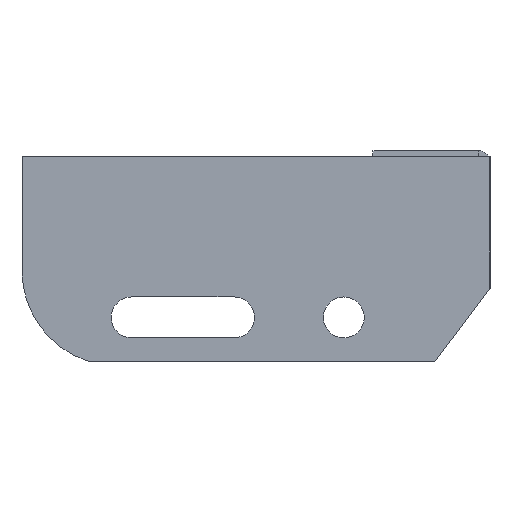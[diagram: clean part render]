
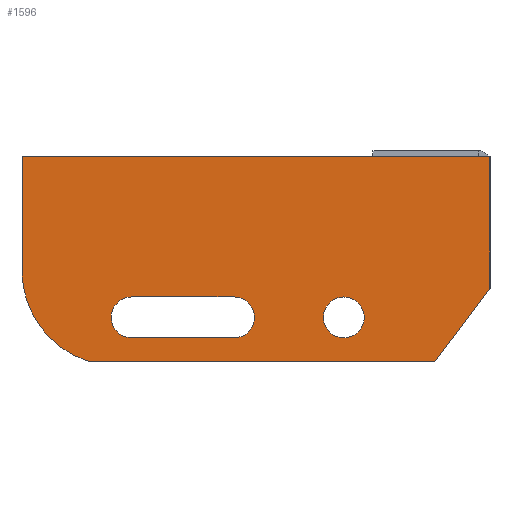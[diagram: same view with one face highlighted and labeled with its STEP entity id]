
A CAD part, left-side view. The second image highlights one B-rep face of the part: STEP entity #1596.
In plain terms, the highlighted planar face has unit normal (-1, 0, 0) as drawn and (0, 0, 1) by its records, which use the part's own axes.
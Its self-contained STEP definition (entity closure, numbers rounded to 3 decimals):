
#4 = CARTESIAN_POINT ( 'NONE',  ( -122.5, -55., 3. ) ) ;
#21 = ORIENTED_EDGE ( 'NONE', *, *, #1333, .F. ) ;
#30 = DIRECTION ( 'NONE',  ( 0., 0., 1. ) ) ;
#63 = EDGE_CURVE ( 'NONE', #1091, #831, #307, .T. ) ;
#109 = EDGE_CURVE ( 'NONE', #1829, #354, #1939, .T. ) ;
#112 = CARTESIAN_POINT ( 'NONE',  ( -122.5, -62., 3. ) ) ;
#155 = DIRECTION ( 'NONE',  ( 0., 1., 0. ) ) ;
#162 = DIRECTION ( 'NONE',  ( 1., 0., 0. ) ) ;
#173 = AXIS2_PLACEMENT_3D ( 'NONE', #204, #30, #1734 ) ;
#174 = DIRECTION ( 'NONE',  ( 1., 0., 0. ) ) ;
#193 = DIRECTION ( 'NONE',  ( 0., 0., 1. ) ) ;
#195 = DIRECTION ( 'NONE',  ( 0., 0., 1. ) ) ;
#197 = DIRECTION ( 'NONE',  ( 1., 0., 0. ) ) ;
#204 = CARTESIAN_POINT ( 'NONE',  ( -50., -55., 3. ) ) ;
#234 = DIRECTION ( 'NONE',  ( -1., 0., 0. ) ) ;
#240 = CARTESIAN_POINT ( 'NONE',  ( 0., -45., 3. ) ) ;
#243 = AXIS2_PLACEMENT_3D ( 'NONE', #790, #193, #1294 ) ;
#256 = DIRECTION ( 'NONE',  ( 1., 0., 0. ) ) ;
#258 = ORIENTED_EDGE ( 'NONE', *, *, #1832, .F. ) ;
#298 = CARTESIAN_POINT ( 'NONE',  ( -122.5, -48., 3. ) ) ;
#306 = DIRECTION ( 'NONE',  ( 1., 0., 0. ) ) ;
#307 = CIRCLE ( 'NONE', #243, 7. ) ;
#308 = VERTEX_POINT ( 'NONE', #1037 ) ;
#333 = LINE ( 'NONE', #980, #1511 ) ;
#341 = ORIENTED_EDGE ( 'NONE', *, *, #1239, .T. ) ;
#352 = ORIENTED_EDGE ( 'NONE', *, *, #1924, .T. ) ;
#354 = VERTEX_POINT ( 'NONE', #1659 ) ;
#376 = VERTEX_POINT ( 'NONE', #914 ) ;
#377 = VECTOR ( 'NONE', #971, 1000. ) ;
#383 = VECTOR ( 'NONE', #155, 1000. ) ;
#409 = CIRCLE ( 'NONE', #827, 7. ) ;
#415 = FACE_OUTER_BOUND ( 'NONE', #635, .T. ) ;
#418 = ORIENTED_EDGE ( 'NONE', *, *, #1402, .T. ) ;
#462 = LINE ( 'NONE', #1371, #1705 ) ;
#475 = ORIENTED_EDGE ( 'NONE', *, *, #1128, .T. ) ;
#524 = CARTESIAN_POINT ( 'NONE',  ( -127.5, -39., 3. ) ) ;
#543 = VECTOR ( 'NONE', #1550, 1000. ) ;
#544 = CARTESIAN_POINT ( 'NONE',  ( 0., 0., 3. ) ) ;
#572 = ORIENTED_EDGE ( 'NONE', *, *, #1365, .F. ) ;
#618 = CARTESIAN_POINT ( 'NONE',  ( 0., -45., 3. ) ) ;
#635 = EDGE_LOOP ( 'NONE', ( #475, #1731, #418, #352, #1380, #341 ) ) ;
#663 = DIRECTION ( 'NONE',  ( 0., 0., 1. ) ) ;
#709 = CARTESIAN_POINT ( 'NONE',  ( -129.5, -55., 3. ) ) ;
#720 = VERTEX_POINT ( 'NONE', #866 ) ;
#728 = AXIS2_PLACEMENT_3D ( 'NONE', #524, #663, #1297 ) ;
#745 = VERTEX_POINT ( 'NONE', #240 ) ;
#757 = AXIS2_PLACEMENT_3D ( 'NONE', #4, #195, #162 ) ;
#785 = CARTESIAN_POINT ( 'NONE',  ( 0., 0., 3. ) ) ;
#788 = CIRCLE ( 'NONE', #757, 7. ) ;
#790 = CARTESIAN_POINT ( 'NONE',  ( -122.5, -55., 3. ) ) ;
#807 = DIRECTION ( 'NONE',  ( 0., 0., 1. ) ) ;
#814 = ORIENTED_EDGE ( 'NONE', *, *, #1785, .F. ) ;
#827 = AXIS2_PLACEMENT_3D ( 'NONE', #1593, #992, #197 ) ;
#831 = VERTEX_POINT ( 'NONE', #709 ) ;
#866 = CARTESIAN_POINT ( 'NONE',  ( -122.5, -62., 3. ) ) ;
#870 = FACE_BOUND ( 'NONE', #1478, .T. ) ;
#898 = ORIENTED_EDGE ( 'NONE', *, *, #1745, .F. ) ;
#914 = CARTESIAN_POINT ( 'NONE',  ( -43., -55., 3. ) ) ;
#971 = DIRECTION ( 'NONE',  ( -1., 0., 0. ) ) ;
#980 = CARTESIAN_POINT ( 'NONE',  ( -160., 0., 3. ) ) ;
#990 = AXIS2_PLACEMENT_3D ( 'NONE', #1029, #1653, #256 ) ;
#992 = DIRECTION ( 'NONE',  ( 0., 0., 1. ) ) ;
#994 = VECTOR ( 'NONE', #234, 1000. ) ;
#1004 = VERTEX_POINT ( 'NONE', #1589 ) ;
#1012 = VERTEX_POINT ( 'NONE', #1240 ) ;
#1018 = CARTESIAN_POINT ( 'NONE',  ( -160., -39., 3. ) ) ;
#1020 = VECTOR ( 'NONE', #306, 1000. ) ;
#1029 = CARTESIAN_POINT ( 'NONE',  ( -127.5, -39., 3. ) ) ;
#1037 = CARTESIAN_POINT ( 'NONE',  ( -18.839, -70., 3. ) ) ;
#1052 = CIRCLE ( 'NONE', #173, 7. ) ;
#1070 = CARTESIAN_POINT ( 'NONE',  ( -87.5, -62., 3. ) ) ;
#1079 = DIRECTION ( 'NONE',  ( 1., 0., 0. ) ) ;
#1091 = VERTEX_POINT ( 'NONE', #298 ) ;
#1128 = EDGE_CURVE ( 'NONE', #745, #1829, #1850, .T. ) ;
#1201 = ORIENTED_EDGE ( 'NONE', *, *, #63, .F. ) ;
#1239 = EDGE_CURVE ( 'NONE', #308, #745, #1382, .T. ) ;
#1240 = CARTESIAN_POINT ( 'NONE',  ( -87.5, -48., 3. ) ) ;
#1294 = DIRECTION ( 'NONE',  ( 1., 0., 0. ) ) ;
#1297 = DIRECTION ( 'NONE',  ( 1., 0., 0. ) ) ;
#1309 = LINE ( 'NONE', #1883, #377 ) ;
#1310 = EDGE_CURVE ( 'NONE', #1776, #376, #1610, .T. ) ;
#1324 = AXIS2_PLACEMENT_3D ( 'NONE', #1584, #807, #174 ) ;
#1333 = EDGE_CURVE ( 'NONE', #1012, #1091, #1309, .T. ) ;
#1339 = FACE_BOUND ( 'NONE', #1997, .T. ) ;
#1347 = PLANE ( 'NONE',  #990 ) ;
#1365 = EDGE_CURVE ( 'NONE', #1651, #1012, #409, .T. ) ;
#1371 = CARTESIAN_POINT ( 'NONE',  ( -18.839, -70., 3. ) ) ;
#1380 = ORIENTED_EDGE ( 'NONE', *, *, #1720, .T. ) ;
#1382 = LINE ( 'NONE', #618, #543 ) ;
#1402 = EDGE_CURVE ( 'NONE', #354, #1559, #333, .T. ) ;
#1463 = ORIENTED_EDGE ( 'NONE', *, *, #1310, .F. ) ;
#1478 = EDGE_LOOP ( 'NONE', ( #898, #814, #1201, #21, #572 ) ) ;
#1511 = VECTOR ( 'NONE', #1603, 1000. ) ;
#1521 = CARTESIAN_POINT ( 'NONE',  ( -57., -55., 3. ) ) ;
#1550 = DIRECTION ( 'NONE',  ( 0.602, 0.799, 0. ) ) ;
#1559 = VERTEX_POINT ( 'NONE', #1018 ) ;
#1584 = CARTESIAN_POINT ( 'NONE',  ( -50., -55., 3. ) ) ;
#1589 = CARTESIAN_POINT ( 'NONE',  ( -137.26, -70., 3. ) ) ;
#1593 = CARTESIAN_POINT ( 'NONE',  ( -87.5, -55., 3. ) ) ;
#1596 = ADVANCED_FACE ( 'NONE', ( #415, #1339, #870 ), #1347, .T. ) ;
#1601 = CARTESIAN_POINT ( 'NONE',  ( 0., 0., 3. ) ) ;
#1603 = DIRECTION ( 'NONE',  ( 0., -1., 0. ) ) ;
#1610 = CIRCLE ( 'NONE', #1324, 7. ) ;
#1651 = VERTEX_POINT ( 'NONE', #1070 ) ;
#1653 = DIRECTION ( 'NONE',  ( 0., 0., 1. ) ) ;
#1659 = CARTESIAN_POINT ( 'NONE',  ( -160., 0., 3. ) ) ;
#1700 = LINE ( 'NONE', #112, #1020 ) ;
#1705 = VECTOR ( 'NONE', #1079, 1000. ) ;
#1720 = EDGE_CURVE ( 'NONE', #1004, #308, #462, .T. ) ;
#1731 = ORIENTED_EDGE ( 'NONE', *, *, #109, .T. ) ;
#1734 = DIRECTION ( 'NONE',  ( 1., 0., 0. ) ) ;
#1745 = EDGE_CURVE ( 'NONE', #720, #1651, #1700, .T. ) ;
#1776 = VERTEX_POINT ( 'NONE', #1521 ) ;
#1785 = EDGE_CURVE ( 'NONE', #831, #720, #788, .T. ) ;
#1829 = VERTEX_POINT ( 'NONE', #1601 ) ;
#1832 = EDGE_CURVE ( 'NONE', #376, #1776, #1052, .T. ) ;
#1838 = CIRCLE ( 'NONE', #728, 32.5 ) ;
#1850 = LINE ( 'NONE', #785, #383 ) ;
#1883 = CARTESIAN_POINT ( 'NONE',  ( -122.5, -48., 3. ) ) ;
#1924 = EDGE_CURVE ( 'NONE', #1559, #1004, #1838, .T. ) ;
#1939 = LINE ( 'NONE', #544, #994 ) ;
#1997 = EDGE_LOOP ( 'NONE', ( #1463, #258 ) ) ;
